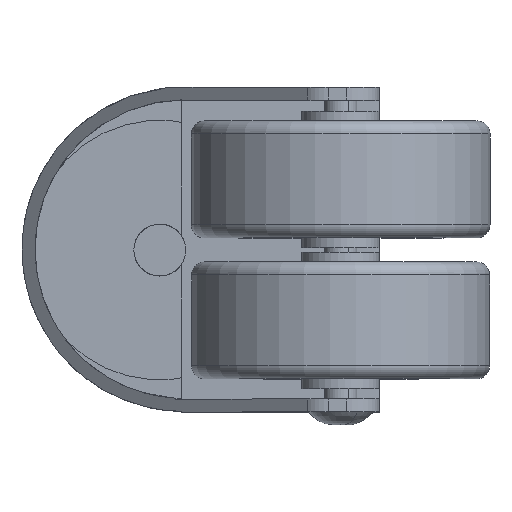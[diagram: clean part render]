
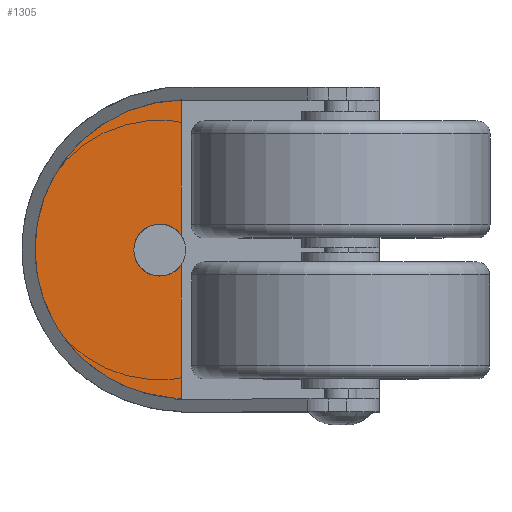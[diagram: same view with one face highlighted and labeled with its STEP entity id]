
A CAD part, top view. The second image highlights one B-rep face of the part: STEP entity #1305.
In plain terms, the highlighted planar face has unit normal (0, 0, 1).
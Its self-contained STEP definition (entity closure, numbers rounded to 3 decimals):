
#47 = LINE ( 'NONE', #291, #1247 ) ;
#52 = VERTEX_POINT ( 'NONE', #715 ) ;
#228 = DIRECTION ( 'NONE',  ( 0., 0., -1. ) ) ;
#270 = VERTEX_POINT ( 'NONE', #1617 ) ;
#291 = CARTESIAN_POINT ( 'NONE',  ( 0., 9., 0.06 ) ) ;
#354 = DIRECTION ( 'NONE',  ( 0., 0., -1. ) ) ;
#369 = EDGE_CURVE ( 'NONE', #2593, #1120, #531, .T. ) ;
#386 = CIRCLE ( 'NONE', #2731, 4. ) ;
#531 = CIRCLE ( 'NONE', #1900, 23. ) ;
#583 = DIRECTION ( 'NONE',  ( 1., 0., 0. ) ) ;
#603 = ORIENTED_EDGE ( 'NONE', *, *, #1708, .T. ) ;
#704 = ORIENTED_EDGE ( 'NONE', *, *, #2400, .T. ) ;
#715 = CARTESIAN_POINT ( 'NONE',  ( -21.115, 16.287, 0.06 ) ) ;
#763 = AXIS2_PLACEMENT_3D ( 'NONE', #2134, #228, #1898 ) ;
#848 = DIRECTION ( 'NONE',  ( 0., 0., -1. ) ) ;
#877 = DIRECTION ( 'NONE',  ( 0., 0., -1. ) ) ;
#1120 = VERTEX_POINT ( 'NONE', #3060 ) ;
#1212 = FACE_OUTER_BOUND ( 'NONE', #2864, .T. ) ;
#1247 = VECTOR ( 'NONE', #1488, 1000. ) ;
#1305 = ADVANCED_FACE ( 'NONE', ( #1212 ), #1887, .F. ) ;
#1488 = DIRECTION ( 'NONE',  ( 1., 0., 0. ) ) ;
#1534 = CIRCLE ( 'NONE', #2079, 4. ) ;
#1617 = CARTESIAN_POINT ( 'NONE',  ( -18.835, 9., 0.06 ) ) ;
#1708 = EDGE_CURVE ( 'NONE', #2593, #3012, #47, .T. ) ;
#1778 = CARTESIAN_POINT ( 'NONE',  ( -44.006, 9., 0.06 ) ) ;
#1783 = CARTESIAN_POINT ( 'NONE',  ( -21.011, 8.511, 0.06 ) ) ;
#1887 = PLANE ( 'NONE',  #763 ) ;
#1898 = DIRECTION ( 'NONE',  ( -1., 0., 0. ) ) ;
#1900 = AXIS2_PLACEMENT_3D ( 'NONE', #1783, #354, #2018 ) ;
#2018 = DIRECTION ( 'NONE',  ( -1., 0., 0. ) ) ;
#2079 = AXIS2_PLACEMENT_3D ( 'NONE', #2307, #877, #2544 ) ;
#2134 = CARTESIAN_POINT ( 'NONE',  ( -21.115, 9., 0.06 ) ) ;
#2277 = CARTESIAN_POINT ( 'NONE',  ( -21.115, 12.287, 0.06 ) ) ;
#2291 = VECTOR ( 'NONE', #583, 1000. ) ;
#2307 = CARTESIAN_POINT ( 'NONE',  ( -21.115, 12.287, 0.06 ) ) ;
#2400 = EDGE_CURVE ( 'NONE', #270, #1120, #2929, .T. ) ;
#2427 = EDGE_CURVE ( 'NONE', #3012, #52, #386, .T. ) ;
#2458 = CARTESIAN_POINT ( 'NONE',  ( -23.395, 9., 0.06 ) ) ;
#2492 = CARTESIAN_POINT ( 'NONE',  ( 0., 9., 0.06 ) ) ;
#2515 = DIRECTION ( 'NONE',  ( -1., 0., 0. ) ) ;
#2544 = DIRECTION ( 'NONE',  ( -1., 0., 0. ) ) ;
#2593 = VERTEX_POINT ( 'NONE', #1778 ) ;
#2709 = EDGE_CURVE ( 'NONE', #52, #270, #1534, .T. ) ;
#2731 = AXIS2_PLACEMENT_3D ( 'NONE', #2277, #848, #2515 ) ;
#2743 = ORIENTED_EDGE ( 'NONE', *, *, #2427, .T. ) ;
#2864 = EDGE_LOOP ( 'NONE', ( #603, #2743, #2912, #704, #2947 ) ) ;
#2912 = ORIENTED_EDGE ( 'NONE', *, *, #2709, .T. ) ;
#2929 = LINE ( 'NONE', #2492, #2291 ) ;
#2947 = ORIENTED_EDGE ( 'NONE', *, *, #369, .F. ) ;
#3012 = VERTEX_POINT ( 'NONE', #2458 ) ;
#3060 = CARTESIAN_POINT ( 'NONE',  ( 1.984, 9., 0.06 ) ) ;
